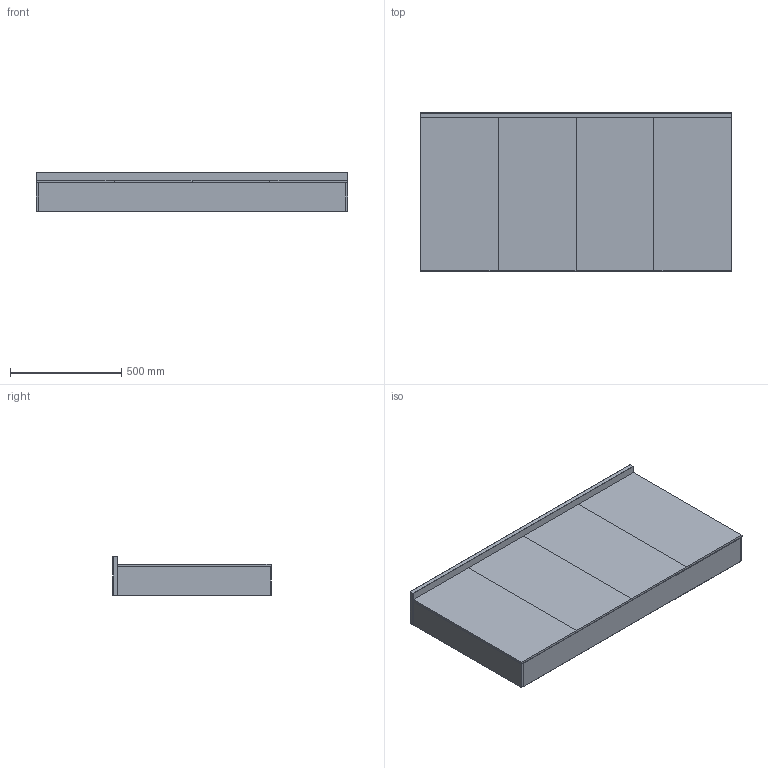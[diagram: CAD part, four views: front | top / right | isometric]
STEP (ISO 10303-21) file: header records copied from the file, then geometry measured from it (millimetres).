
FILE_DESCRIPTION (( 'STEP AP203' ), '1' );
FILE_NAME ('H3-MC-140-Shell-drawing.STEP', '2024-10-23T13:50:02', ( '' ), ( '' ), 'SwSTEP 2.0', 'SolidWorks 2024', '' );
FILE_SCHEMA (( 'CONFIG_CONTROL_DESIGN' ));
Length unit declared in the file: millimetre
Products named in the file (5): Sida-690x130x10; Topp-1400x175x20; Botten-1380x130; H3-MC-140-Shell-drawing; Spegeldörr-350x690x10
Assembly tree (8 placements, depth 2):
  H3-MC-140-Shell-drawing
    Topp-1400x175x20
    Sida-690x130x10  x2
    Spegeldörr-350x690x10  x4
    Botten-1380x130
Bounding box: 1400 x 710 x 175 mm (x, y, z)
Volume: 19220301.3 mm3; surface area: 3358707.4 mm2
Topology: 8 solids, 8 shells, 128 faces, 272 edges, 128 vertices
Faces by surface type: plane 48, cylinder 48, sphere 32
Entity records: 2667 total; most frequent: DIRECTION 418, CARTESIAN_POINT 331, ORIENTED_EDGE 312, AXIS2_PLACEMENT_3D 167, EDGE_CURVE 156, VECTOR 84, LINE 84, EDGE_LOOP 84
